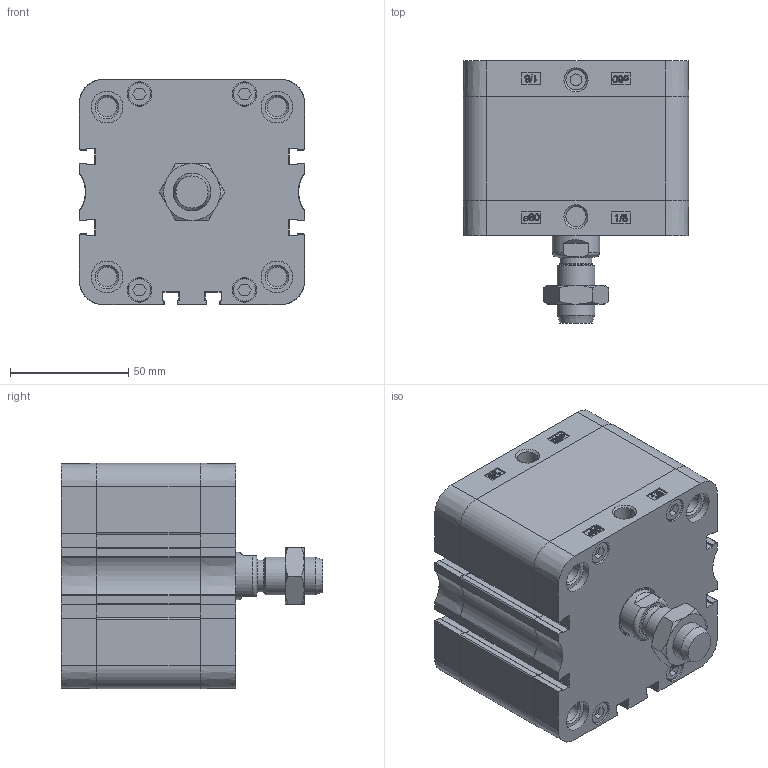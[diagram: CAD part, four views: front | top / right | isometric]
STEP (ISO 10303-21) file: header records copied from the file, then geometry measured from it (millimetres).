
FILE_DESCRIPTION(/* description */ ('Unknown'),/* implementation_level */ '2;1');
FILE_NAME(/* name */ 'ZEF 80_20',/* time_stamp */ '2024-09-12T07:50:00+02:00',/* author */ ('Unknown'),/* organization */ ('Unknown'),/* preprocessor_version */ 'ST-DEVELOPER v16.7',/* originating_system */ 'Solid Edge',/* authorisation */ 'Unknown');
FILE_SCHEMA (('AUTOMOTIVE_DESIGN {1 0 10303 214 3 1 1}'));
Length unit declared in the file: millimetre
Products named in the file (6): ZEF 80_20; Profilrohr; Kolbenstange; Kit_1; Kit_2; Mutter
Assembly tree (5 placements, depth 2):
  ZEF 80_20
    Profilrohr
    Kolbenstange
    Kit_1
    Kit_2
    Mutter
Bounding box: 95.5 x 111 x 95.5 mm (x, y, z)
Volume: 548856.2 mm3; surface area: 116417.8 mm2
Topology: 5 solids, 5 shells, 756 faces, 1997 edges, 1321 vertices
Faces by surface type: plane 349, cylinder 209, bspline 122, cone 55, torus 21
Full cylindrical faces by diameter (mm): 5 x1, 8.376 x8, 8.566 x2, 9.8 x8, 10.3 x8, 12 x1, 13.5 x9, 14.376 x1, 16 x1, 20 x1, 20.6 x1, 21.9 x1, 23 x1, 25 x1, 80 x2
Entity records: 28198 total; most frequent: CARTESIAN_POINT 5862, ORIENTED_EDGE 3736, DIRECTION 3358, EDGE_CURVE 1868, VERTEX_POINT 1292, AXIS2_PLACEMENT_3D 1142, LINE 1074, VECTOR 1074
